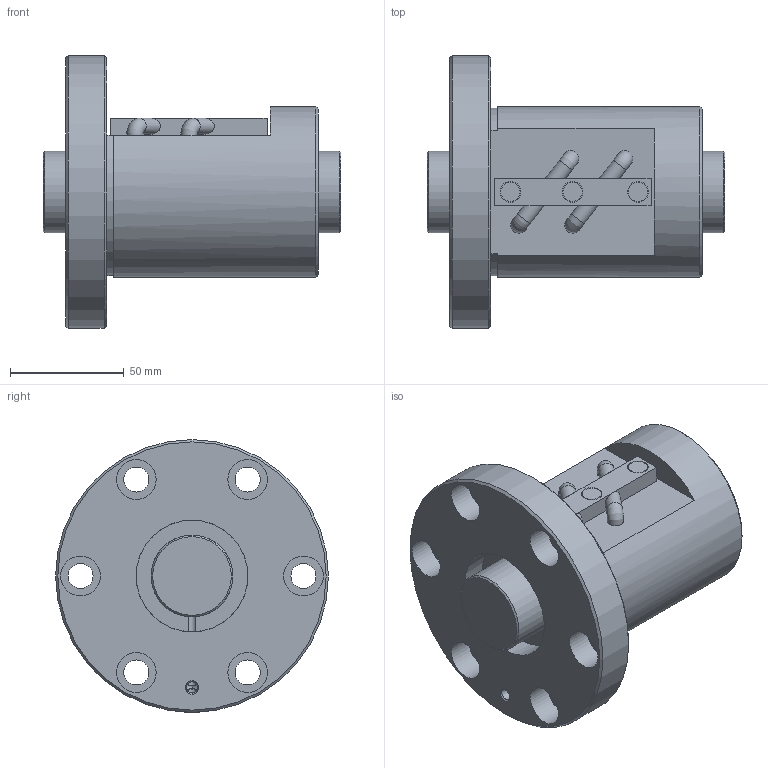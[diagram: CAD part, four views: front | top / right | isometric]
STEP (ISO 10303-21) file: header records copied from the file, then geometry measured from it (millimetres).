
FILE_DESCRIPTION(/* description */ ('STEP AP203'),/* implementation_level */ '2;1');
FILE_NAME(/* name */ 'BIF3610V-5RRG0+131LC0_000',/* time_stamp */ '2024-07-15T08:23:39+02:00',/* author */ ('License CC BY-ND 4.0'),/* organization */ ('CADENAS'),/* preprocessor_version */ 'ST-DEVELOPER v19.3',/* originating_system */ 'PARTsolutions',/* authorisation */ ' ');
FILE_SCHEMA (('CONFIG_CONTROL_DESIGN'));
Length unit declared in the file: millimetre
Products named in the file (3): BIF3610V-5RRG0+131LC0_000; BIF3610V-5RR000 Shaft; BIF3610V-5RR Nut
Assembly tree (2 placements, depth 2):
  BIF3610V-5RRG0+131LC0_000
    BIF3610V-5RR000 Shaft
    BIF3610V-5RR Nut
Bounding box: 131 x 120 x 120 mm (x, y, z)
Volume: 568493.9 mm3; surface area: 86704.6 mm2
Topology: 2 solids, 2 shells, 89 faces, 204 edges, 130 vertices
Faces by surface type: plane 41, cylinder 37, cone 7, torus 4
Full cylindrical faces by diameter (mm): 4 x3, 4.917 x1, 7.1 x4, 8.5 x3, 9.1 x3, 11 x6, 17.5 x6, 36 x2, 49.2 x2, 75 x1, 120 x1
Entity records: 2430 total; most frequent: CARTESIAN_POINT 481, DIRECTION 424, ORIENTED_EDGE 298, AXIS2_PLACEMENT_3D 194, FACE_BOUND 165, EDGE_LOOP 164, EDGE_CURVE 149, VERTEX_POINT 116
